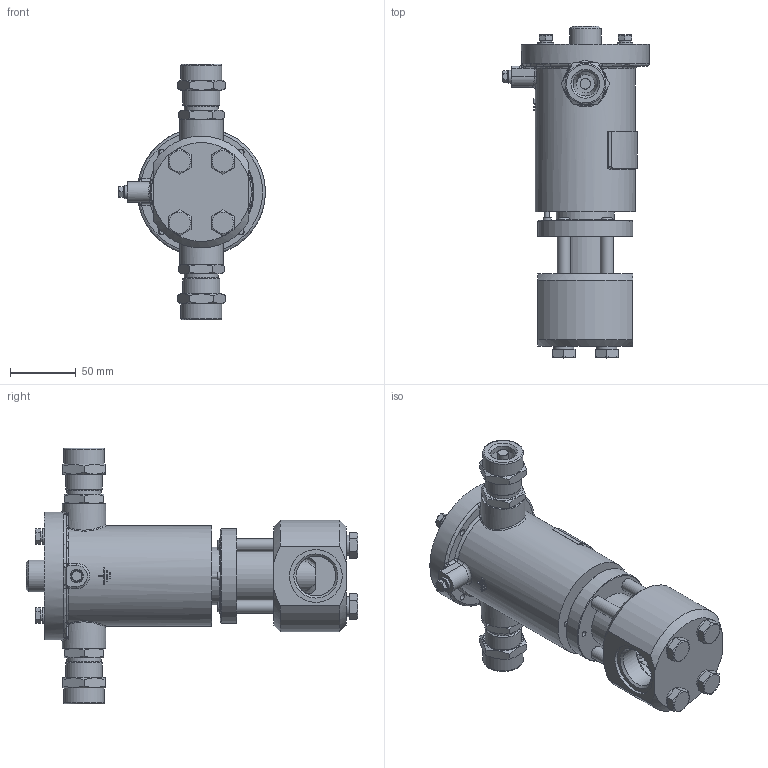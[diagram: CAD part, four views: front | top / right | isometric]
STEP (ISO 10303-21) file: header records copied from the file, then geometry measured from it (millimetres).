
FILE_DESCRIPTION(('STEP AP203'), '1');
FILE_NAME('ÑÅÍÑ-ÏÐ DN20PN250-ÑÂ-G1-0.stp', '2018-10-01T10:04:26', ('Îðëîâ Å.Â.'), ('ÎÎÎ ÍÏÏ Ñåíñîð'), 'ASCON STEP Converter 1.3', 'Kompas 3D', '');
FILE_SCHEMA(('CONFIG_CONTROL_DESIGN','SUPPORT_RESOURCE_SCHEMA'));
Length unit declared in the file: millimetre
Products named in the file (1): 1
Bounding box: 111.2 x 251.9 x 194 mm (x, y, z)
Volume: 679642.8 mm3; surface area: 204018.9 mm2
Topology: 3 solids, 19 shells, 1798 faces, 4823 edges, 3156 vertices
Faces by surface type: cylinder 941, plane 665, cone 126, bspline 29, torus 21, extrusion 16
Full cylindrical faces by diameter (mm): 2.459 x4, 4 x8, 4.134 x1, 4.5 x2, 4.917 x4, 5 x3, 6 x9, 6.5 x6, 8 x4, 10 x10, 11 x4, 12 x4, 13 x2, 18.632 x2, 20 x4, 22 x2, 22.376 x2, 23.5 x2, 24 x3, 24.5 x2, 25 x2, 26 x4, 26.376 x2, 28 x2, 28.5 x1, 29 x2, 30 x1, 30.291 x2, 31 x2, 33 x2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
Entity records: 68576 total; most frequent: CARTESIAN_POINT 22293, DIRECTION 10042, ORIENTED_EDGE 9624, EDGE_CURVE 4812, AXIS2_PLACEMENT_3D 3837, VERTEX_POINT 3156, VECTOR 2368, LINE 2352
